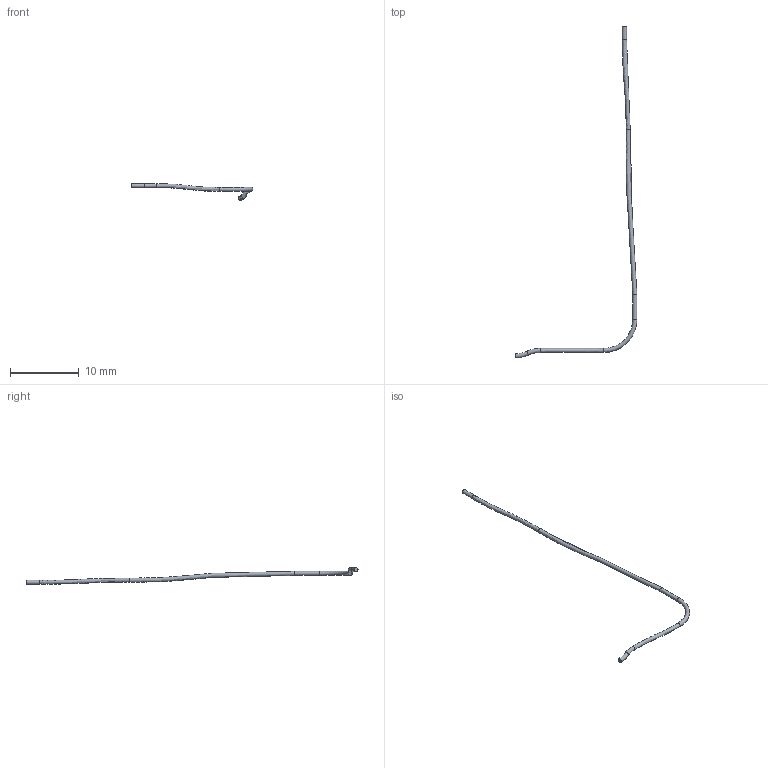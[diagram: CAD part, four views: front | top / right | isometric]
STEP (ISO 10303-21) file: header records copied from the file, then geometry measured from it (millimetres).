
FILE_DESCRIPTION(('FreeCAD Model'),'2;1');
FILE_NAME('Open CASCADE Shape Model','2026-11-12T12:41:53',('FreeCAD'),( 'FreeCAD'),'Open CASCADE STEP processor 7.8','FreeCAD','Unknown');
FILE_SCHEMA(('AUTOMOTIVE_DESIGN { 1 0 10303 214 1 1 1 1 }'));
Length unit declared in the file: millimetre
Products named in the file (1): Open CASCADE STEP translator 7.8 4
Bounding box: 17.73 x 48.34 x 2.41 mm (x, y, z)
Volume: 17.8 mm3; surface area: 119.2 mm2
Topology: 1 solids, 1 shells, 10 faces, 17 edges, 9 vertices
Faces by surface type: bspline 3, torus 3, cylinder 2, plane 2
Full cylindrical faces by diameter (mm): 0.6 x2
Entity records: 2676 total; most frequent: CARTESIAN_POINT 2496, DIRECTION 36, ORIENTED_EDGE 34, AXIS2_PLACEMENT_3D 17, EDGE_CURVE 17, ADVANCED_FACE 10, FACE_BOUND 10, EDGE_LOOP 10
